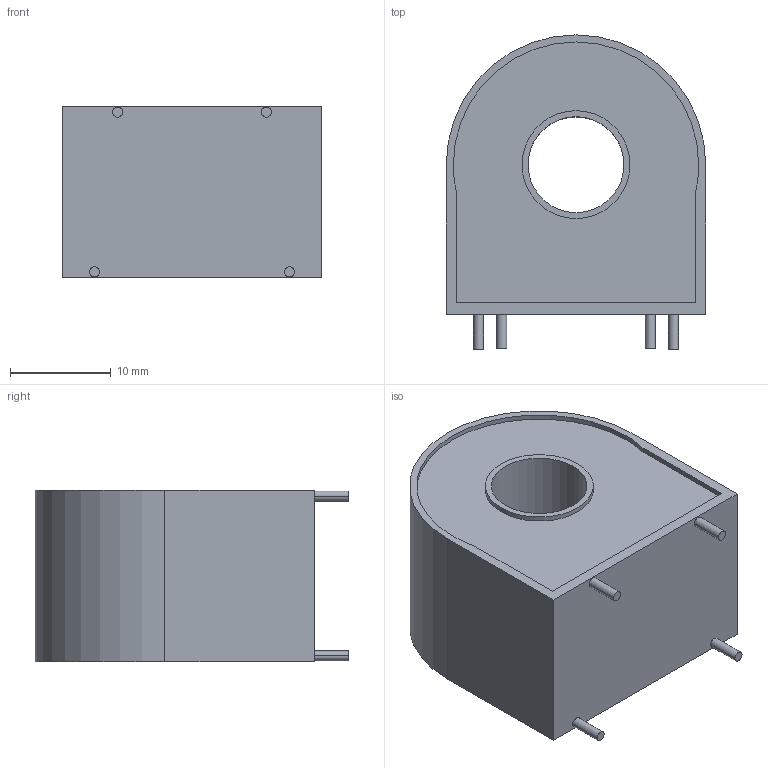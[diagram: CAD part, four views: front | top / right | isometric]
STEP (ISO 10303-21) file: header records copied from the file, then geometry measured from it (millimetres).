
FILE_DESCRIPTION (( 'STEP AP214' ), '1' );
FILE_NAME ('CT-1002-151.STEP', '2020-08-06T20:57:29', ( '' ), ( '' ), 'SwSTEP 2.0', 'SolidWorks 2015', '' );
FILE_SCHEMA (( 'AUTOMOTIVE_DESIGN' ));
Length unit declared in the file: millimetre
Products named in the file (1): CT-1002-151
Bounding box: 25.75 x 31.15 x 17.05 mm (x, y, z)
Volume: 9534.9 mm3; surface area: 3394.4 mm2
Topology: 1 solids, 1 shells, 30 faces, 66 edges, 44 vertices
Faces by surface type: cylinder 16, plane 14
Entity records: 1111 total; most frequent: DIRECTION 160, CARTESIAN_POINT 141, ORIENTED_EDGE 132, EDGE_CURVE 66, AXIS2_PLACEMENT_3D 63, VERTEX_POINT 44, EDGE_LOOP 38, VECTOR 34
